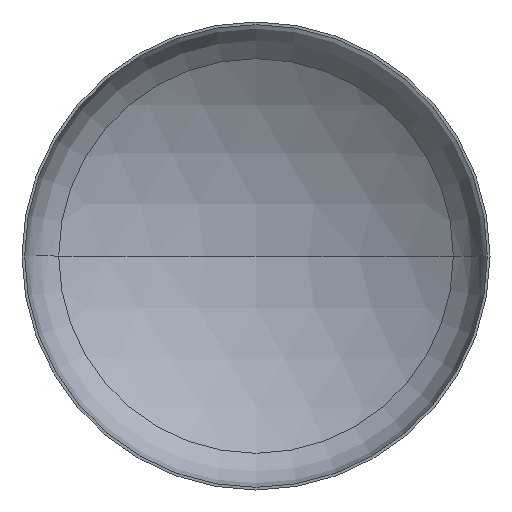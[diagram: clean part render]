
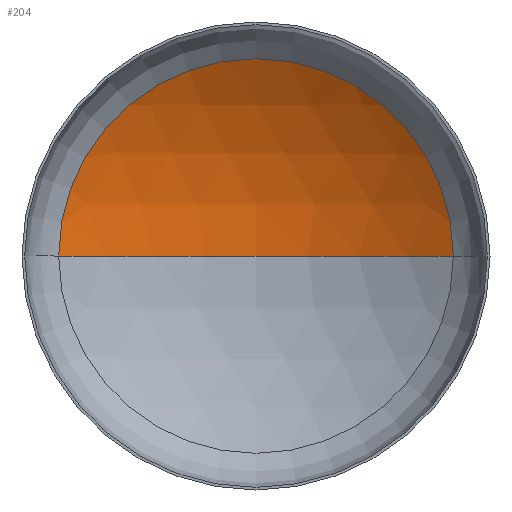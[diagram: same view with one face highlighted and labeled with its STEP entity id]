
A CAD part, front view. The second image highlights one B-rep face of the part: STEP entity #204.
In plain terms, the highlighted spherical face has radius 5200 mm.
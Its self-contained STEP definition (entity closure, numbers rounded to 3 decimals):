
#2 = VERTEX_POINT ( 'NONE', #240 ) ;
#13 = ORIENTED_EDGE ( 'NONE', *, *, #149, .T. ) ;
#20 = DIRECTION ( 'NONE',  ( -1., 0., 0. ) ) ;
#21 = ORIENTED_EDGE ( 'NONE', *, *, #150, .T. ) ;
#50 = VERTEX_POINT ( 'NONE', #239 ) ;
#54 = VERTEX_POINT ( 'NONE', #238 ) ;
#57 = ORIENTED_EDGE ( 'NONE', *, *, #154, .F. ) ;
#60 = AXIS2_PLACEMENT_3D ( 'NONE', #174, #189, #20 ) ;
#95 = EDGE_LOOP ( 'NONE', ( #57, #21, #13 ) ) ;
#102 = AXIS2_PLACEMENT_3D ( 'NONE', #319, #389, #404 ) ;
#109 = AXIS2_PLACEMENT_3D ( 'NONE', #184, #185, #156 ) ;
#117 = AXIS2_PLACEMENT_3D ( 'NONE', #212, #203, #199 ) ;
#144 = FACE_OUTER_BOUND ( 'NONE', #95, .T. ) ;
#149 = EDGE_CURVE ( 'NONE', #2, #50, #173, .T. ) ;
#150 = EDGE_CURVE ( 'NONE', #54, #2, #344, .T. ) ;
#154 = EDGE_CURVE ( 'NONE', #54, #50, #397, .T. ) ;
#156 = DIRECTION ( 'NONE',  ( -1., 0., 0. ) ) ;
#173 = CIRCLE ( 'NONE', #117, 2739.905 ) ;
#174 = CARTESIAN_POINT ( 'NONE',  ( 0., -3449.682, 0. ) ) ;
#184 = CARTESIAN_POINT ( 'NONE',  ( 0., -3449.682, 0. ) ) ;
#185 = DIRECTION ( 'NONE',  ( 0., 0., -1. ) ) ;
#189 = DIRECTION ( 'NONE',  ( 0., 0., -1. ) ) ;
#199 = DIRECTION ( 'NONE',  ( 1., 0., 0. ) ) ;
#203 = DIRECTION ( 'NONE',  ( 0., -1., 0. ) ) ;
#204 = ADVANCED_FACE ( 'NONE', ( #144 ), #275, .F. ) ;
#212 = CARTESIAN_POINT ( 'NONE',  ( 0., 969.924, 0. ) ) ;
#238 = CARTESIAN_POINT ( 'NONE',  ( 0., 1750.318, 0. ) ) ;
#239 = CARTESIAN_POINT ( 'NONE',  ( -2739.905, 969.924, 0. ) ) ;
#240 = CARTESIAN_POINT ( 'NONE',  ( 2739.905, 969.924, 0. ) ) ;
#275 = SPHERICAL_SURFACE ( 'NONE', #60, 5200. ) ;
#319 = CARTESIAN_POINT ( 'NONE',  ( 0., -3449.682, 0. ) ) ;
#344 = CIRCLE ( 'NONE', #109, 5200. ) ;
#389 = DIRECTION ( 'NONE',  ( 0., 0., 1. ) ) ;
#397 = CIRCLE ( 'NONE', #102, 5200. ) ;
#404 = DIRECTION ( 'NONE',  ( 1., 0., 0. ) ) ;
